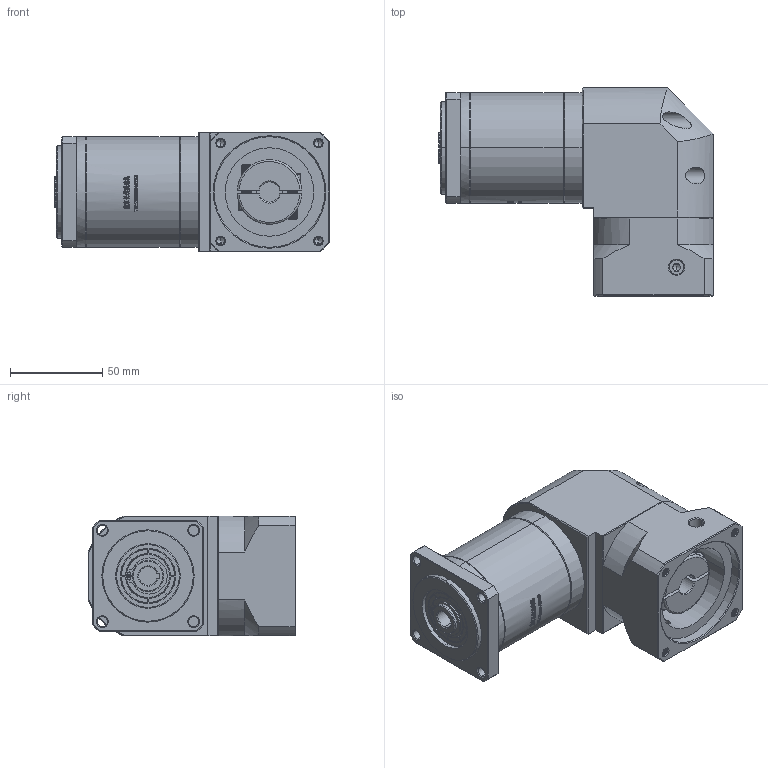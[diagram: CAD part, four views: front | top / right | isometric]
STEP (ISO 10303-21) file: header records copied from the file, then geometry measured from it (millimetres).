
FILE_DESCRIPTION (( 'STEP AP214' ), '1' );
FILE_NAME ('ZFR60-K10-L2-11-60-75-M5.STEP', '2022-04-20T08:52:28', ( '' ), ( 'Microsoft' ), 'SwSTEP 2.0', 'SolidWorks 2016', '' );
FILE_SCHEMA (( 'AUTOMOTIVE_DESIGN' ));
Length unit declared in the file: millimetre
Products named in the file (1): ZFR60-K10-L2-11-60-75-M5
Bounding box: 149 x 112.7 x 65 mm (x, y, z)
Volume: 594684.9 mm3; surface area: 82423.1 mm2
Topology: 5 solids, 6 shells, 2627 faces, 7146 edges, 4655 vertices
Faces by surface type: plane 1390, bspline 584, cylinder 359, cone 282, torus 12
Entity records: 143043 total; most frequent: CARTESIAN_POINT 53228, ORIENTED_EDGE 14252, DIRECTION 10236, EDGE_CURVE 7126, VERTEX_POINT 4655, LINE 4338, VECTOR 4338, AXIS2_PLACEMENT_3D 2949
